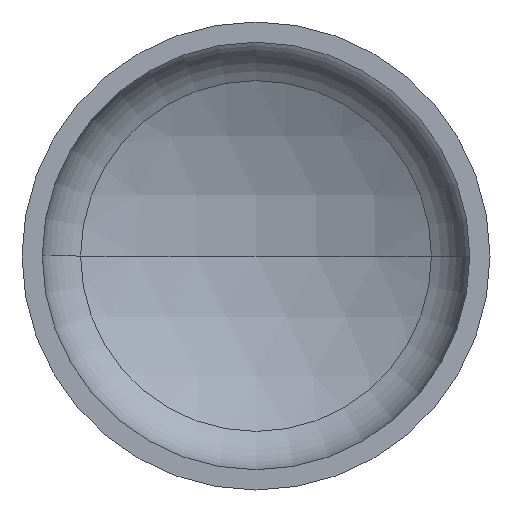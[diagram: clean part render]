
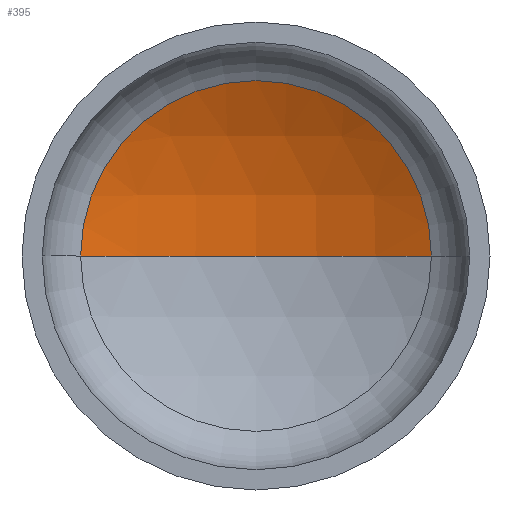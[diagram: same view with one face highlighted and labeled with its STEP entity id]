
A CAD part, front view. The second image highlights one B-rep face of the part: STEP entity #395.
In plain terms, the highlighted spherical face has radius 960 mm.
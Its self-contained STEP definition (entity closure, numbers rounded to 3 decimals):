
#4 = DIRECTION ( 'NONE',  ( 0., 0., 1. ) ) ;
#26 = CARTESIAN_POINT ( 'NONE',  ( 0., -564.731, 0. ) ) ;
#30 = EDGE_LOOP ( 'NONE', ( #70, #54, #280 ) ) ;
#32 = VERTEX_POINT ( 'NONE', #409 ) ;
#34 = AXIS2_PLACEMENT_3D ( 'NONE', #26, #4, #180 ) ;
#35 = AXIS2_PLACEMENT_3D ( 'NONE', #376, #185, #393 ) ;
#38 = AXIS2_PLACEMENT_3D ( 'NONE', #213, #214, #193 ) ;
#51 = VERTEX_POINT ( 'NONE', #254 ) ;
#54 = ORIENTED_EDGE ( 'NONE', *, *, #76, .T. ) ;
#70 = ORIENTED_EDGE ( 'NONE', *, *, #91, .F. ) ;
#74 = EDGE_CURVE ( 'NONE', #51, #80, #326, .T. ) ;
#76 = EDGE_CURVE ( 'NONE', #32, #51, #113, .T. ) ;
#80 = VERTEX_POINT ( 'NONE', #195 ) ;
#91 = EDGE_CURVE ( 'NONE', #32, #80, #92, .T. ) ;
#92 = CIRCLE ( 'NONE', #34, 960. ) ;
#113 = CIRCLE ( 'NONE', #35, 960. ) ;
#180 = DIRECTION ( 'NONE',  ( 1., 0., 0. ) ) ;
#185 = DIRECTION ( 'NONE',  ( 0., 0., -1. ) ) ;
#193 = DIRECTION ( 'NONE',  ( 1., 0., 0. ) ) ;
#195 = CARTESIAN_POINT ( 'NONE',  ( -449.652, 283.452, 0. ) ) ;
#202 = SPHERICAL_SURFACE ( 'NONE', #349, 960. ) ;
#213 = CARTESIAN_POINT ( 'NONE',  ( 0., 283.452, 0. ) ) ;
#214 = DIRECTION ( 'NONE',  ( 0., -1., 0. ) ) ;
#215 = FACE_OUTER_BOUND ( 'NONE', #30, .T. ) ;
#254 = CARTESIAN_POINT ( 'NONE',  ( 449.652, 283.452, 0. ) ) ;
#280 = ORIENTED_EDGE ( 'NONE', *, *, #74, .T. ) ;
#320 = DIRECTION ( 'NONE',  ( -1., 0., 0. ) ) ;
#326 = CIRCLE ( 'NONE', #38, 449.652 ) ;
#349 = AXIS2_PLACEMENT_3D ( 'NONE', #406, #371, #320 ) ;
#371 = DIRECTION ( 'NONE',  ( 0., 0., -1. ) ) ;
#376 = CARTESIAN_POINT ( 'NONE',  ( 0., -564.731, 0. ) ) ;
#393 = DIRECTION ( 'NONE',  ( -1., 0., 0. ) ) ;
#395 = ADVANCED_FACE ( 'NONE', ( #215 ), #202, .F. ) ;
#406 = CARTESIAN_POINT ( 'NONE',  ( 0., -564.731, 0. ) ) ;
#409 = CARTESIAN_POINT ( 'NONE',  ( 0., 395.269, 0. ) ) ;
